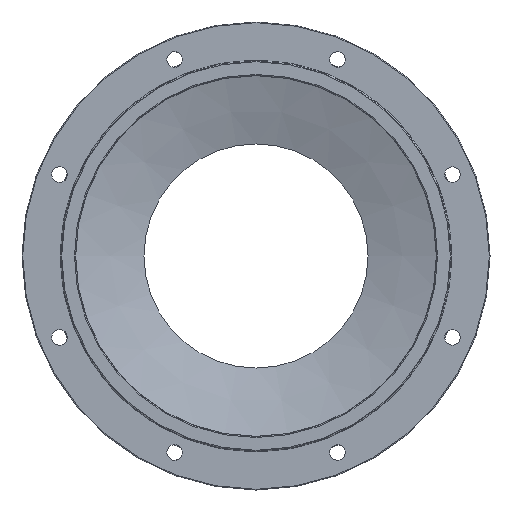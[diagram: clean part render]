
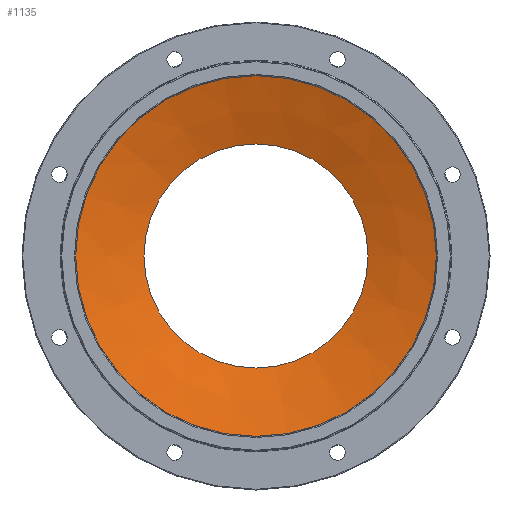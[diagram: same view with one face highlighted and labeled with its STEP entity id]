
A CAD part, front view. The second image highlights one B-rep face of the part: STEP entity #1135.
In plain terms, the highlighted conical face has half-angle 72.646 degrees and reference radius 206.5 mm.
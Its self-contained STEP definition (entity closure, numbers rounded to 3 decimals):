
#1073=CARTESIAN_POINT('',(-254.298,-34.32,0.));
#1074=VERTEX_POINT('',#1073);
#1075=CARTESIAN_POINT('',(0.0,-34.32,0.));
#1076=DIRECTION('',(0.0,1.0,0.0));
#1077=DIRECTION('',(1.0,0.0,0.0));
#1078=AXIS2_PLACEMENT_3D('',#1075,#1076,#1077);
#1079=CIRCLE('',#1078,254.298);
#1080=EDGE_CURVE('',#1074,#1074,#1079,.T.);
#1116=CARTESIAN_POINT('',(0.0,-19.383,0.0));
#1117=DIRECTION('',(0.0,-1.0,0.0));
#1118=DIRECTION('',(-1.0,0.0,0.0));
#1119=AXIS2_PLACEMENT_3D('',#1116,#1117,#1118);
#1120=CONICAL_SURFACE('',#1119,206.5,72.646);
#1121=CARTESIAN_POINT('',(-158.0,-4.227,0.));
#1122=VERTEX_POINT('',#1121);
#1123=CARTESIAN_POINT('',(0.0,-4.227,0.0));
#1124=DIRECTION('',(0.0,1.0,0.0));
#1125=DIRECTION('',(-1.0,0.0,0.0));
#1126=AXIS2_PLACEMENT_3D('',#1123,#1124,#1125);
#1127=CIRCLE('',#1126,158.0);
#1128=EDGE_CURVE('',#1122,#1122,#1127,.T.);
#1129=ORIENTED_EDGE('',*,*,#1128,.T.);
#1130=EDGE_LOOP('',(#1129));
#1131=FACE_OUTER_BOUND('',#1130,.T.);
#1132=ORIENTED_EDGE('',*,*,#1080,.F.);
#1133=EDGE_LOOP('',(#1132));
#1134=FACE_BOUND('',#1133,.T.);
#1135=ADVANCED_FACE('',(#1131,#1134),#1120,.F.);
